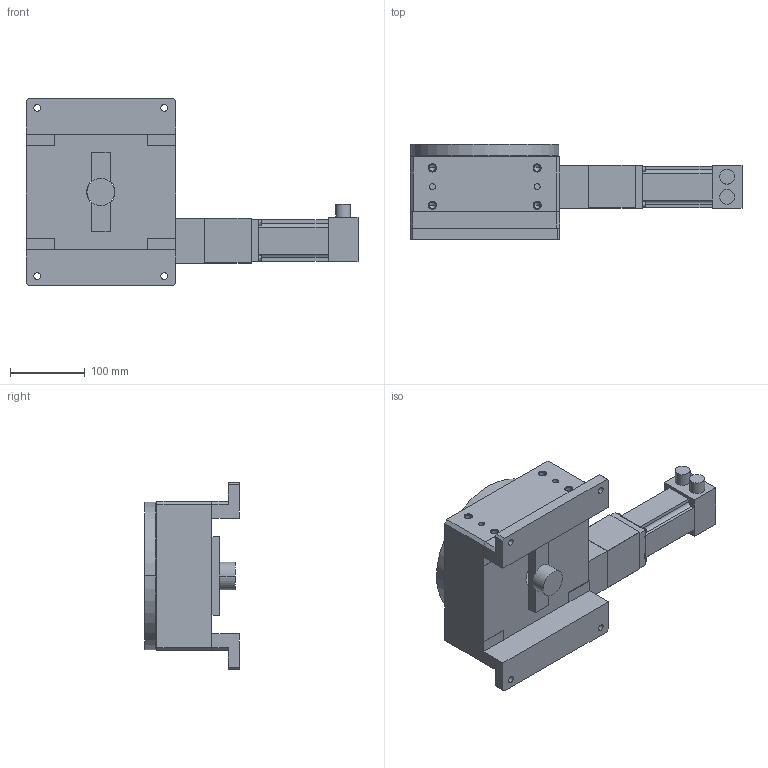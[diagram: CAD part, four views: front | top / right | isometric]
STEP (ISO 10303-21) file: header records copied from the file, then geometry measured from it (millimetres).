
FILE_DESCRIPTION((''),'2;1');
FILE_NAME('R200M7MP2E1_ASM','2009-07-02T',('FK20128'),(''),'PRO/ENGINEER BY PARAMETRIC TECHNOLOGY CORPORATION, 2006200','PRO/ENGINEER BY PARAMETRIC TECHNOLOGY CORPORATION, 2006200','');
FILE_SCHEMA(('CONFIG_CONTROL_DESIGN'));
Length unit declared in the file: millimetre
Products named in the file (8): R200M; R200M-M23; RXXXM-BE233; R200M-ENCODER-BRKT; R200M-ENCODER-STANDOFF; RXXXM-ENCODER; R200M-E1_ASM; R200M7MP2E1_ASM
Assembly tree (8 placements, depth 3):
  R200M7MP2E1_ASM
    R200M
    R200M-M23
    RXXXM-BE233
    R200M-E1_ASM
      R200M-ENCODER-BRKT
      R200M-ENCODER-STANDOFF  x2
      RXXXM-ENCODER
Bounding box: 444.12 x 127 x 250.02 mm (x, y, z)
Volume: 4490609.1 mm3; surface area: 404645.7 mm2
Topology: 8 solids, 28 shells, 360 faces, 878 edges, 574 vertices
Faces by surface type: cylinder 174, plane 144, cone 42
Entity records: 9952 total; most frequent: DIRECTION 1874, CARTESIAN_POINT 1658, ORIENTED_EDGE 1480, EDGE_CURVE 776, AXIS2_PLACEMENT_3D 742, VERTEX_POINT 526, EDGE_LOOP 436, VECTOR 390
